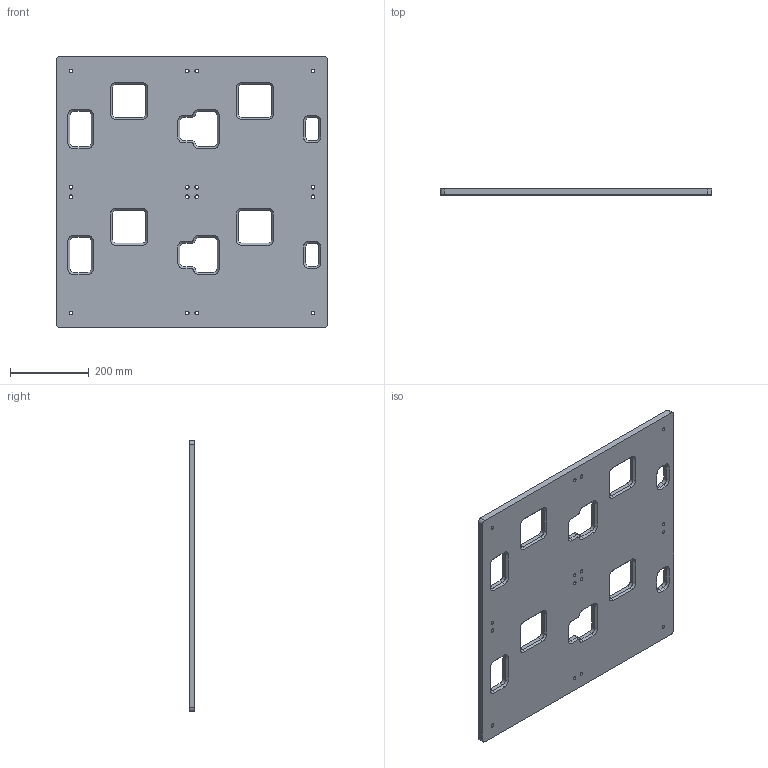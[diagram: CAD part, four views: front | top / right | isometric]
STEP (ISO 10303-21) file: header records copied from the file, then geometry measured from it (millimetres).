
FILE_DESCRIPTION (( 'STEP AP214' ), '1' );
FILE_NAME ('S4-AS-04.06-Rev1, Flyway Mounting Plate Example 2X2, Blind Hole Option.STEP', '2025-08-20T22:47:44', ( '' ), ( '' ), 'SwSTEP 2.0', 'SolidWorks 2022', '' );
FILE_SCHEMA (( 'AUTOMOTIVE_DESIGN' ));
Length unit declared in the file: millimetre
Products named in the file (1): S4-AS-04.06-Rev1, Flyway Mounting Plate Example 2X2, Blind Hole Option
Bounding box: 690 x 15 x 690 mm (x, y, z)
Volume: 6235965 mm3; surface area: 919763.5 mm2
Topology: 1 solids, 1 shells, 408 faces, 1068 edges, 676 vertices
Faces by surface type: plane 244, cylinder 100, cone 64
Entity records: 12585 total; most frequent: CARTESIAN_POINT 2153, DIRECTION 2150, ORIENTED_EDGE 2136, EDGE_CURVE 1068, VECTOR 804, LINE 804, VERTEX_POINT 676, AXIS2_PLACEMENT_3D 673
